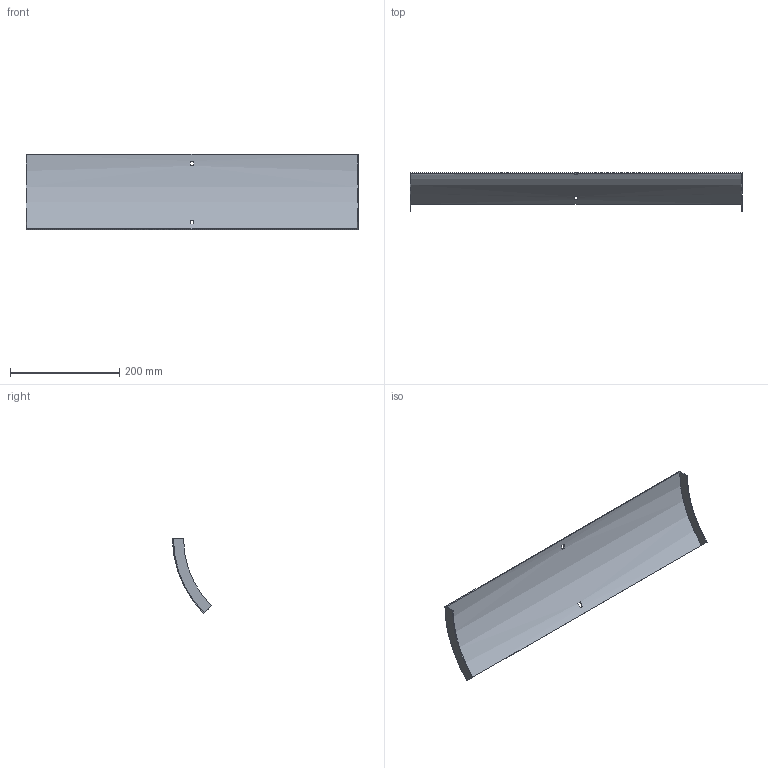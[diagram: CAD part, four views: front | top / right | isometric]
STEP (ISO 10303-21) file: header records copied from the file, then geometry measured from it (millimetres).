
FILE_DESCRIPTION (( 'STEP AP214' ), '1' );
FILE_NAME ('34N1I600.step', '2025-02-21T09:16:53', ( '' ), ( '' ), 'SwSTEP 2.0', 'SolidWorks 2023', '' );
FILE_SCHEMA (( 'AUTOMOTIVE_DESIGN' ));
Length unit declared in the file: millimetre
Products named in the file (1): 34N1I600
Bounding box: 607 x 70.96 x 137.18 mm (x, y, z)
Volume: 146005.7 mm3; surface area: 197111.3 mm2
Topology: 1 solids, 1 shells, 18 faces, 48 edges, 32 vertices
Faces by surface type: plane 14, cylinder 4
Entity records: 599 total; most frequent: DIRECTION 102, CARTESIAN_POINT 99, ORIENTED_EDGE 96, EDGE_CURVE 48, AXIS2_PLACEMENT_3D 35, VERTEX_POINT 32, VECTOR 32, LINE 32
